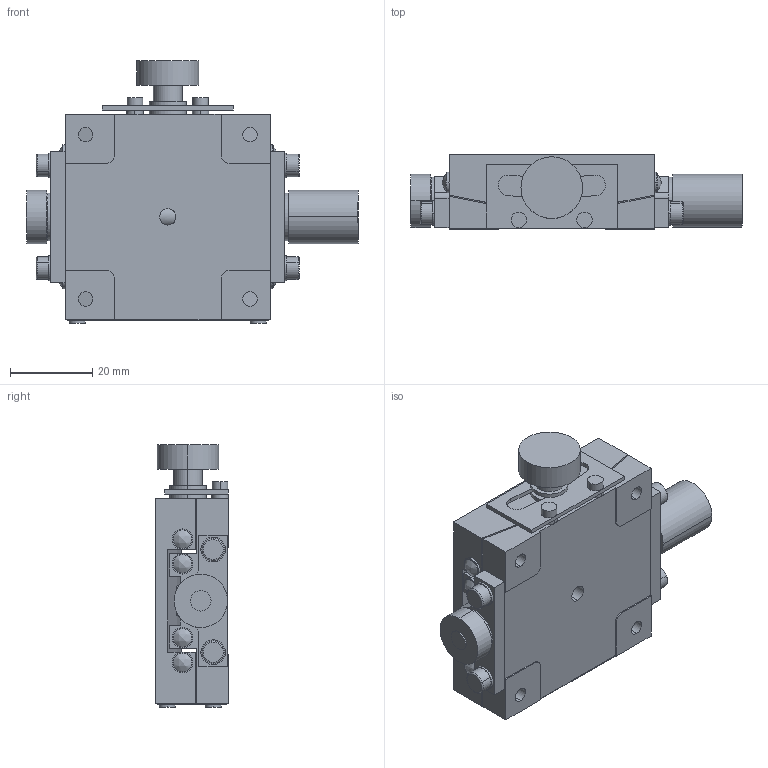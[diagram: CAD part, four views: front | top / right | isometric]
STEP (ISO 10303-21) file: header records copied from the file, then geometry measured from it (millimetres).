
FILE_DESCRIPTION (( 'STEP AP203' ), '1' );
FILE_NAME ('B56-50WR.STEP', '2024-01-29T09:17:32', ( '' ), ( '' ), 'SwSTEP 2.0', 'SolidWorks 2017', '' );
FILE_SCHEMA (( 'CONFIG_CONTROL_DESIGN' ));
Length unit declared in the file: millimetre
Products named in the file (3): B56-50W_T; B56-50WR_B; B56-50WR
Assembly tree (2 placements, depth 2):
  B56-50WR
    B56-50WR_B
    B56-50W_T
Bounding box: 80.8 x 18 x 63.9 mm (x, y, z)
Volume: 47974.7 mm3; surface area: 21170.3 mm2
Topology: 2 solids, 36 shells, 552 faces, 1241 edges, 785 vertices
Faces by surface type: cylinder 290, plane 180, cone 62, bspline 12, torus 8
Entity records: 16524 total; most frequent: CARTESIAN_POINT 3559, DIRECTION 2859, ORIENTED_EDGE 2414, EDGE_CURVE 1207, AXIS2_PLACEMENT_3D 1155, VERTEX_POINT 785, EDGE_LOOP 666, CIRCLE 610
